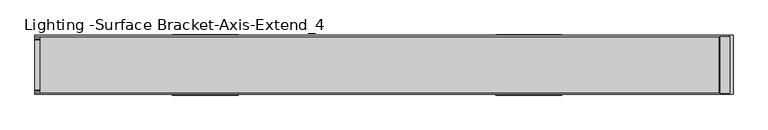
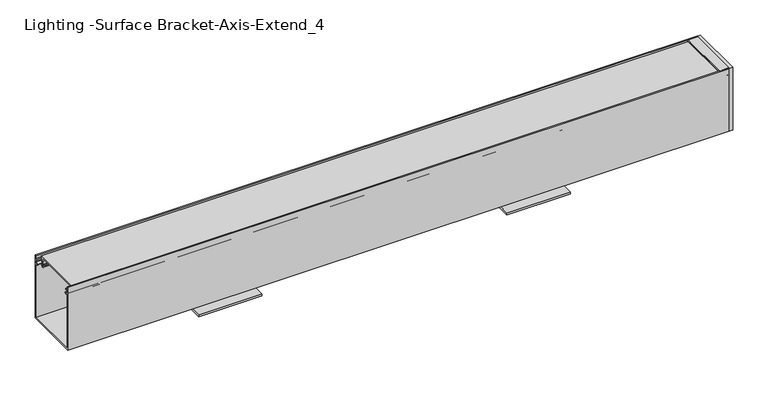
"""IFC4 building model written with IfcOpenShell, lengths in millimetres: light fixture geometry, Lighting -Surface Bracket-Axis-Extend_4 : EX4S-900-80-35-SO-4."""

from ifc_helpers import new_model, si_unit, point, frame, frame_2d, origin, place, context, project, spatial, polyline, circle_curve, trimmed, segment, composite_curve, outline, extrude, source, transform, mapped, element, save


def lighting_surface_bracket_axis_extend_4_60ec5a75(model_context):
    return source(origin(), model_context, "Body", "SweptSolid", [
        extrude(outline(polyline([(14.05509, 19.05), (70.87489, 19.05), (70.87489, 3.9878), (96.2749235, 3.9878), (96.2749235, 0.0), (-11.3449435, 0.0), (-11.3449435, 3.9878), (14.05509, 3.9878), (14.05509, 19.05)])), frame((-398.1118713, 0.0, 0.0), z_axis=(1.0, 0.0, 0.0), x_axis=(0.0, 1.0, 0.0)), (0.0, 0.0, 1.0), 118.69928),
        extrude(outline(polyline([(14.05509, 19.05), (70.87489, 19.05), (70.87489, 3.9878), (96.2749235, 3.9878), (96.2749235, 0.0), (-11.3449435, 0.0), (-11.3449435, 3.9878), (14.05509, 3.9878), (14.05509, 19.05)])), frame((-977.3102233, 0.0, 0.0), z_axis=(1.0, 0.0, 0.0), x_axis=(0.0, 1.0, 0.0)), (0.0, 0.0, 1.0), 118.69928),
        extrude(outline(polyline([(142.7257861, 2.2687167), (141.25575, 2.2687167), (141.25575, 3.0624667), (142.0495, 3.0624667), (142.0495, 9.9141167), (139.2432981, 9.9141167), (139.2432981, 20.5821167), (143.8275, 20.5821167), (143.8275, 3.1932605), (142.7257861, 2.2687167)])), frame((0.0, -8.28802, 0.0), z_axis=(0.0, 1.0, 0.0), x_axis=(0.0, 0.0, 1.0)), (0.0, 0.0, 1.0), 101.50602),
        extrude(outline(polyline([(20.5821167, -10.32002), (20.5821167, 95.25), (26.9321167, 95.25), (26.9321167, -10.32002), (20.5821167, -10.32002)])), frame((0.0, 0.0, 19.05), z_axis=(0.0, 0.0, 1.0), x_axis=(1.0, 0.0, 0.0)), (0.0, 0.0, 1.0), 124.7775),
        extrude(outline(composite_curve([segment(polyline([(87.4187262, 139.0954791), (-2.4887462, 139.0954791), (-2.8274381, 132.6328537)]), True, "CONTINUOUS"), segment(trimmed(circle_curve(frame_2d((-5.57022, 129.63398)), 4.064), [point((-2.8274381, 132.6328537))], [point((-3.6979014, 126.0269703))], False, "CARTESIAN"), True, "CONTINUOUS"), segment(trimmed(circle_curve(frame_2d((-0.465364, 126.8158257)), 3.3274001), [point((-3.6979014, 126.0269703))], [point((-2.8826156, 124.5292375))], True, "CARTESIAN"), True, "CONTINUOUS"), segment(trimmed(circle_curve(frame_2d((4.5536623, 131.5635508)), 10.2362001), [point((-2.8826156, 124.5292375))], [point((-1.5279266, 123.3298355))], True, "CARTESIAN"), True, "CONTINUOUS"), segment(trimmed(circle_curve(frame_2d((-2.0183773, 122.6658262)), 0.8255), [point((-1.5279266, 123.3298355))], [point((-2.508828, 122.0018169))], False, "CARTESIAN"), True, "CONTINUOUS"), segment(trimmed(circle_curve(frame_2d((4.5536631, 131.5635517)), 11.8872013), [point((-2.508828, 122.0018169))], [point((-4.0820152, 123.3946708))], False, "CARTESIAN"), True, "CONTINUOUS"), segment(trimmed(circle_curve(frame_2d((-0.465364, 126.8158257)), 4.9784001), [point((-4.0820152, 123.3946708))], [point((-5.4269007, 127.22524))], False, "CARTESIAN"), True, "CONTINUOUS"), segment(trimmed(circle_curve(frame_2d((-5.57022, 129.63398)), 2.413), [point((-5.4269007, 127.22524))], [point((-3.7914141, 131.2644458))], True, "CARTESIAN"), True, "CONTINUOUS"), segment(trimmed(circle_curve(frame_2d((-1.9189869, 132.9807256)), 2.54), [point((-3.7914141, 131.2644458))], [point((-4.4555059, 133.1136589))], False, "CARTESIAN"), True, "CONTINUOUS"), segment(polyline([(-4.4555059, 133.1136589), (-4.142012, 139.0954791), (-7.14502, 139.0954791), (-7.14502, 141.00048), (92.075, 141.00048), (92.075, 139.0954791), (89.071992, 139.0954791), (89.3854859, 133.1136589)]), True, "CONTINUOUS"), segment(trimmed(circle_curve(frame_2d((86.8489669, 132.9807256)), 2.54), [point((89.3854859, 133.1136589))], [point((88.7213941, 131.2644458))], False, "CARTESIAN"), True, "CONTINUOUS"), segment(trimmed(circle_curve(frame_2d((90.5002, 129.63398)), 2.413), [point((88.7213941, 131.2644458))], [point((90.3568807, 127.22524))], True, "CARTESIAN"), True, "CONTINUOUS"), segment(trimmed(circle_curve(frame_2d((85.395344, 126.8158257)), 4.9784001), [point((90.3568807, 127.22524))], [point((89.0119952, 123.3946708))], False, "CARTESIAN"), True, "CONTINUOUS"), segment(trimmed(circle_curve(frame_2d((80.3763169, 131.5635517)), 11.8872013), [point((89.0119952, 123.3946708))], [point((87.438808, 122.0018169))], False, "CARTESIAN"), True, "CONTINUOUS"), segment(trimmed(circle_curve(frame_2d((86.9483573, 122.6658262)), 0.8255), [point((87.438808, 122.0018169))], [point((86.4579066, 123.3298355))], False, "CARTESIAN"), True, "CONTINUOUS"), segment(trimmed(circle_curve(frame_2d((80.3763177, 131.5635508)), 10.2362001), [point((86.4579066, 123.3298355))], [point((87.8125956, 124.5292375))], True, "CARTESIAN"), True, "CONTINUOUS"), segment(trimmed(circle_curve(frame_2d((85.395344, 126.8158257)), 3.3274001), [point((87.8125956, 124.5292375))], [point((88.6278814, 126.0269703))], True, "CARTESIAN"), True, "CONTINUOUS"), segment(trimmed(circle_curve(frame_2d((90.5002, 129.63398)), 4.064), [point((88.6278814, 126.0269703))], [point((87.7574181, 132.6328537))], False, "CARTESIAN"), True, "CONTINUOUS"), segment(polyline([(87.7574181, 132.6328537), (87.4187262, 139.0954791)]), True, "CONTINUOUS")], self_intersect=False)), frame((-1213.6038833, 0.0, 0.0), z_axis=(1.0, 0.0, 0.0), x_axis=(0.0, 1.0, 0.0)), (0.0, 0.0, 1.0), 1219.2),
        extrude(outline(composite_curve([segment(polyline([(93.218, 128.9177), (91.3785797, 128.9177)]), True, "CONTINUOUS"), segment(trimmed(circle_curve(frame_2d((89.8722297, 128.9177)), 1.5063501), [point((91.3785797, 128.9177))], [point((89.1190546, 127.6131626))], False, "CARTESIAN"), True, "CONTINUOUS"), segment(trimmed(circle_curve(frame_2d((90.3102121, 129.6763079)), 2.382315), [point((89.1190546, 127.6131626))], [point((87.9356516, 129.8683682))], False, "CARTESIAN"), True, "CONTINUOUS"), segment(polyline([(87.9356516, 129.8683682), (91.313, 132.7023), (91.313, 130.9497), (93.218, 130.9497), (93.218, 137.4775), (91.313, 137.4775), (91.313, 135.9535), (89.662, 136.0400252), (89.662, 138.7475), (93.218, 138.7475), (93.218, 143.8275), (95.25, 143.8275), (95.25, 19.05), (-10.32002, 19.05), (-10.32002, 143.8275), (-8.28802, 143.8275), (-8.28802, 138.7475), (-4.73202, 138.7475), (-4.73202, 136.0400252), (-6.38302, 135.9535), (-6.38302, 137.4775), (-8.28802, 137.4775), (-8.28802, 130.9497), (-6.38302, 130.9497), (-6.38302, 132.7023), (-3.0056716, 129.8683682)]), True, "CONTINUOUS"), segment(trimmed(circle_curve(frame_2d((-5.3802321, 129.6763079)), 2.382315), [point((-3.0056716, 129.8683682))], [point((-4.1890746, 127.6131626))], False, "CARTESIAN"), True, "CONTINUOUS"), segment(trimmed(circle_curve(frame_2d((-4.9422497, 128.9177)), 1.5063501), [point((-4.1890746, 127.6131626))], [point((-6.4485997, 128.9177))], False, "CARTESIAN"), True, "CONTINUOUS"), segment(polyline([(-6.4485997, 128.9177), (-8.28802, 128.9177), (-8.28802, 21.082), (93.218, 21.082), (93.218, 128.9177)]), True, "CONTINUOUS")], self_intersect=False)), frame((-1222.7605833, 0.0, 0.0), z_axis=(1.0, 0.0, 0.0), x_axis=(0.0, 1.0, 0.0)), (0.0, 0.0, 1.0), 1243.3427),
    ])


if __name__ == "__main__":
    model = new_model("IFC4")
    model_context = context("Model", 3, world=origin())
    ifc_project = project(units=[si_unit("LENGTHUNIT", "METRE", prefix="MILLI")], contexts=[model_context])
    site = spatial("IfcSite", under=ifc_project)
    building = spatial("IfcBuilding", under=site)
    placement = place(None, origin())
    lighting_surface_bracket_axis_extend_4_shape = lighting_surface_bracket_axis_extend_4_60ec5a75(model_context)
    element("IfcLightFixture", 1, ObjectType="Lighting -Surface Bracket-Axis-Extend_4 : EX4S-900-80-35-SO-4", at=placement, inside=building, context=model_context, shape_type="MappedRepresentation", body=[
        mapped(lighting_surface_bracket_axis_extend_4_shape, transform((0.0, 0.0, 0.0), x_axis=(1.0, 0.0, 0.0), y_axis=(0.0, 1.0, 0.0), z_axis=(0.0, 0.0, 1.0))),
    ])
    save(model, "model.ifc")
